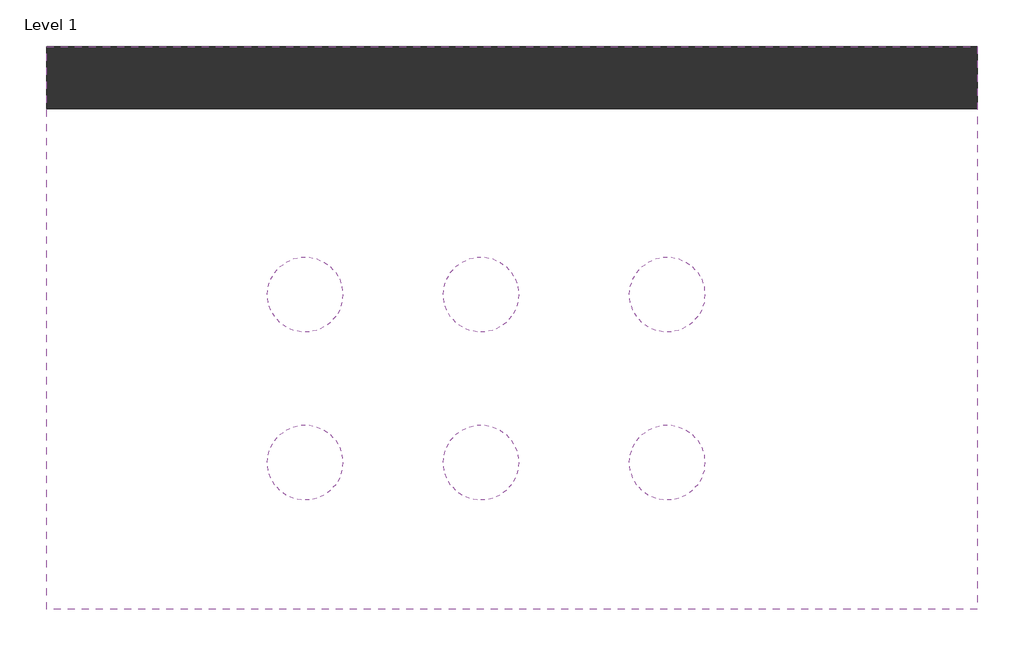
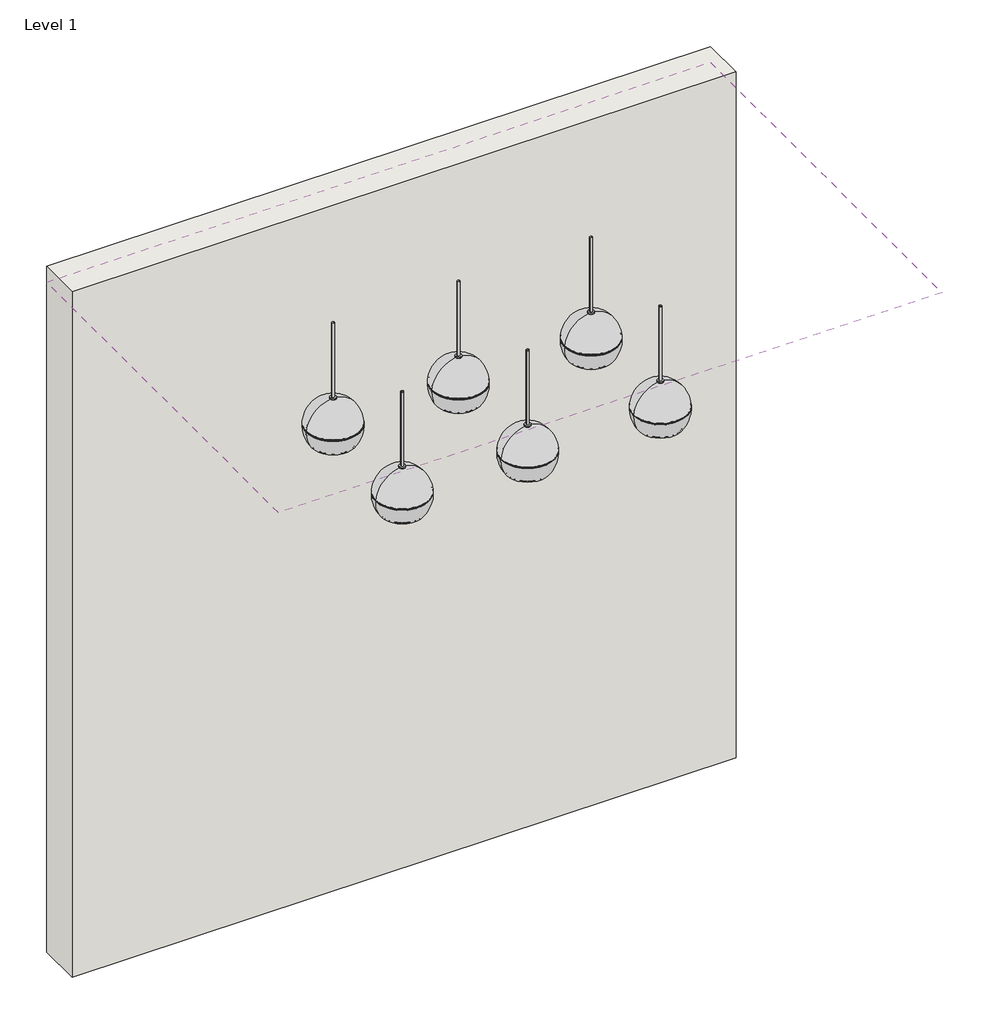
# One storey: 6 proxies, 1 covering, 1 wall.
"""IFC4 building model written with IfcOpenShell, lengths in millimetres."""

from ifc_helpers import new_model, si_unit, frame, origin, origin_with_axes, place, context, project, spatial, polyline, outline, extrude, transform, mapped, element, save
from components import communication_devices_e43f43e1

model = new_model("IFC4")

# Units and contexts
model_context = context("Model", 3, world=origin())
ifc_project = project(units=[si_unit("LENGTHUNIT", "METRE", prefix="MILLI")], contexts=[model_context])

# Site, building, storey
site = spatial("IfcSite", under=ifc_project)
building = spatial("IfcBuilding", under=site)
storey = spatial("IfcBuildingStorey", under=building, Name="Level 1", Elevation=0.0)

# Proxies
placement = place(None, origin())
communication_devices_shape = communication_devices_e43f43e1(model_context)
element("IfcBuildingElementProxy", 1, Name="221216 BIM Data_DL-K16-130T-EN54 : DL-K 16-130/T-EN54", ObjectType="221216 BIM Data_DL-K16-130T-EN54 : DL-K 16-130/T-EN54", at=placement, inside=storey, context=model_context, shape_type="MappedRepresentation", body=[
    mapped(communication_devices_shape, transform((2468.1973575, 1505.9766815, 2007.15), x_axis=(1.0, 0.0, 0.0), y_axis=(0.0, 1.0, 0.0), z_axis=(0.0, 0.0, 1.0))),
])
element("IfcBuildingElementProxy", 2, Name="221216 BIM Data_DL-K16-130T-EN54 : DL-K 16-130/T-EN54", ObjectType="221216 BIM Data_DL-K16-130T-EN54 : DL-K 16-130/T-EN54", at=placement, inside=storey, context=model_context, shape_type="MappedRepresentation", body=[
    mapped(communication_devices_shape, transform((2899.9973575, 1505.9766815, 2007.15), x_axis=(1.0, 0.0, 0.0), y_axis=(0.0, 1.0, 0.0), z_axis=(0.0, 0.0, 1.0))),
])
element("IfcBuildingElementProxy", 3, Name="221216 BIM Data_DL-K16-130T-EN54 : DL-K 16-130/T-EN54", ObjectType="221216 BIM Data_DL-K16-130T-EN54 : DL-K 16-130/T-EN54", at=placement, inside=storey, context=model_context, shape_type="MappedRepresentation", body=[
    mapped(communication_devices_shape, transform((3357.1973575, 1505.9766815, 2007.15), x_axis=(1.0, 0.0, 0.0), y_axis=(0.0, 1.0, 0.0), z_axis=(0.0, 0.0, 1.0))),
])
element("IfcBuildingElementProxy", 4, Name="221216 BIM Data_DL-K16-130T-EN54 : DL-K 16-130/T-EN54", ObjectType="221216 BIM Data_DL-K16-130T-EN54 : DL-K 16-130/T-EN54", at=placement, inside=storey, context=model_context, shape_type="MappedRepresentation", body=[
    mapped(communication_devices_shape, transform((2468.1973575, 1093.2266815, 2007.15), x_axis=(1.0, 0.0, 0.0), y_axis=(0.0, 1.0, 0.0), z_axis=(0.0, 0.0, 1.0))),
])
element("IfcBuildingElementProxy", 5, Name="221216 BIM Data_DL-K16-130T-EN54 : DL-K 16-130/T-EN54", ObjectType="221216 BIM Data_DL-K16-130T-EN54 : DL-K 16-130/T-EN54", at=placement, inside=storey, context=model_context, shape_type="MappedRepresentation", body=[
    mapped(communication_devices_shape, transform((2899.9973575, 1093.2266815, 2007.15), x_axis=(1.0, 0.0, 0.0), y_axis=(0.0, 1.0, 0.0), z_axis=(0.0, 0.0, 1.0))),
])
element("IfcBuildingElementProxy", 6, Name="221216 BIM Data_DL-K16-130T-EN54 : DL-K 16-130/T-EN54", ObjectType="221216 BIM Data_DL-K16-130T-EN54 : DL-K 16-130/T-EN54", at=placement, inside=storey, context=model_context, shape_type="MappedRepresentation", body=[
    mapped(communication_devices_shape, transform((3357.1973575, 1093.2266815, 2007.15), x_axis=(1.0, 0.0, 0.0), y_axis=(0.0, 1.0, 0.0), z_axis=(0.0, 0.0, 1.0))),
])

# Covering
element("IfcCovering", 7, ObjectType="2' x 4' ACT System", at=placement, inside=storey, context=model_context, shape_type="SweptSolid", body=[
    extrude(outline(polyline([(4119.1973575, 2115.5766815), (4119.1973575, 732.2741036), (1833.1973575, 732.2741036), (1833.1973575, 2115.5766815), (4119.1973575, 2115.5766815)])), frame((0.0, 0.0, 2438.4), z_axis=(0.0, 0.0, 1.0), x_axis=(1.0, 0.0, 0.0)), (0.0, 0.0, 1.0), 57.15),
])

# Wall
element("IfcWall", 8, ObjectType="Exterior - 6\" Generic", at=placement, inside=storey, context=model_context, shape_type="SweptSolid", body=[
    extrude(outline(polyline([(4119.1973575, 1963.1766815), (1833.1973575, 1963.1766815), (1833.1973575, 2115.5766815), (4119.1973575, 2115.5766815), (4119.1973575, 1963.1766815)])), origin_with_axes(), (0.0, 0.0, 1.0), 2495.55),
])

save(model, "model.ifc")
